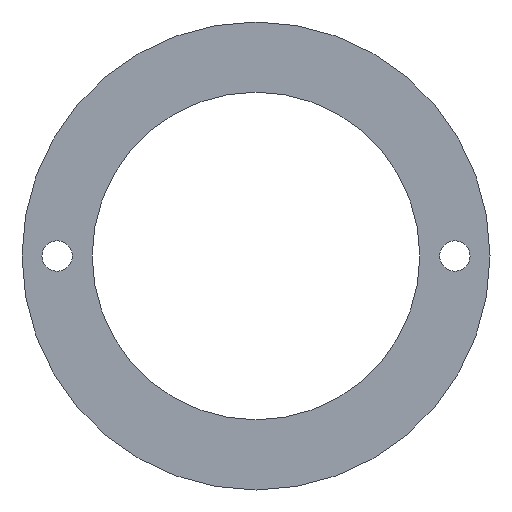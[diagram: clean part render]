
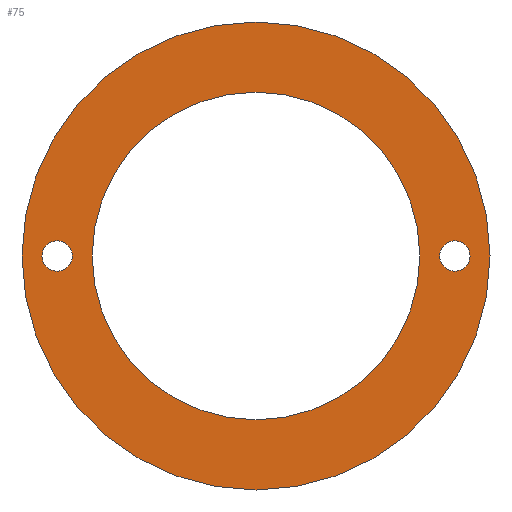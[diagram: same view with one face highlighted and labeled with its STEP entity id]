
A CAD part, front view. The second image highlights one B-rep face of the part: STEP entity #75.
In plain terms, the highlighted planar face has unit normal (0, -1, 0).
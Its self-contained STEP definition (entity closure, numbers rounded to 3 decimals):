
#3 = DIRECTION ( 'NONE',  ( 0., 0., 1. ) ) ;
#4 = CIRCLE ( 'NONE', #36, 50. ) ;
#8 = AXIS2_PLACEMENT_3D ( 'NONE', #31, #111, #174 ) ;
#31 = CARTESIAN_POINT ( 'NONE',  ( 0., 0., 0. ) ) ;
#36 = AXIS2_PLACEMENT_3D ( 'NONE', #64, #286, #313 ) ;
#45 = DIRECTION ( 'NONE',  ( 0., 0., 1. ) ) ;
#50 = EDGE_CURVE ( 'NONE', #304, #170, #4, .T. ) ;
#52 = CIRCLE ( 'NONE', #332, 3.25 ) ;
#56 = ORIENTED_EDGE ( 'NONE', *, *, #208, .T. ) ;
#64 = CARTESIAN_POINT ( 'NONE',  ( 0., 0., 0. ) ) ;
#68 = CIRCLE ( 'NONE', #256, 50. ) ;
#71 = ORIENTED_EDGE ( 'NONE', *, *, #50, .F. ) ;
#75 = ADVANCED_FACE ( 'NONE', ( #76, #298, #222, #141 ), #171, .F. ) ;
#76 = FACE_OUTER_BOUND ( 'NONE', #325, .T. ) ;
#77 = CARTESIAN_POINT ( 'NONE',  ( -42.5, 0., 3.25 ) ) ;
#79 = AXIS2_PLACEMENT_3D ( 'NONE', #337, #164, #3 ) ;
#81 = CARTESIAN_POINT ( 'NONE',  ( 0., 0., -35. ) ) ;
#84 = CARTESIAN_POINT ( 'NONE',  ( 0., 0., 50. ) ) ;
#87 = VERTEX_POINT ( 'NONE', #167 ) ;
#88 = EDGE_CURVE ( 'NONE', #170, #304, #68, .T. ) ;
#89 = AXIS2_PLACEMENT_3D ( 'NONE', #353, #153, #323 ) ;
#91 = VERTEX_POINT ( 'NONE', #81 ) ;
#94 = DIRECTION ( 'NONE',  ( 0., 0., 1. ) ) ;
#104 = ORIENTED_EDGE ( 'NONE', *, *, #163, .T. ) ;
#111 = DIRECTION ( 'NONE',  ( 0., 1., 0. ) ) ;
#116 = CIRCLE ( 'NONE', #79, 3.25 ) ;
#121 = CARTESIAN_POINT ( 'NONE',  ( 0., 0., 0. ) ) ;
#126 = EDGE_CURVE ( 'NONE', #144, #91, #204, .T. ) ;
#128 = AXIS2_PLACEMENT_3D ( 'NONE', #149, #319, #333 ) ;
#137 = ORIENTED_EDGE ( 'NONE', *, *, #185, .T. ) ;
#141 = FACE_BOUND ( 'NONE', #238, .T. ) ;
#144 = VERTEX_POINT ( 'NONE', #270 ) ;
#149 = CARTESIAN_POINT ( 'NONE',  ( -42.5, 0., 0. ) ) ;
#150 = CARTESIAN_POINT ( 'NONE',  ( 0., 0., 0. ) ) ;
#153 = DIRECTION ( 'NONE',  ( 0., 1., 0. ) ) ;
#162 = DIRECTION ( 'NONE',  ( 0., 0., 1. ) ) ;
#163 = EDGE_CURVE ( 'NONE', #207, #87, #52, .T. ) ;
#164 = DIRECTION ( 'NONE',  ( 0., 1., 0. ) ) ;
#165 = ORIENTED_EDGE ( 'NONE', *, *, #126, .T. ) ;
#167 = CARTESIAN_POINT ( 'NONE',  ( -42.5, 0., -3.25 ) ) ;
#170 = VERTEX_POINT ( 'NONE', #292 ) ;
#171 = PLANE ( 'NONE',  #8 ) ;
#173 = ORIENTED_EDGE ( 'NONE', *, *, #88, .F. ) ;
#174 = DIRECTION ( 'NONE',  ( 0., 0., 1. ) ) ;
#175 = EDGE_CURVE ( 'NONE', #91, #144, #209, .T. ) ;
#182 = CARTESIAN_POINT ( 'NONE',  ( 42.5, 0., 3.25 ) ) ;
#185 = EDGE_CURVE ( 'NONE', #87, #207, #283, .T. ) ;
#204 = CIRCLE ( 'NONE', #89, 35. ) ;
#207 = VERTEX_POINT ( 'NONE', #77 ) ;
#208 = EDGE_CURVE ( 'NONE', #284, #278, #330, .T. ) ;
#209 = CIRCLE ( 'NONE', #288, 35. ) ;
#210 = EDGE_LOOP ( 'NONE', ( #344, #165 ) ) ;
#222 = FACE_BOUND ( 'NONE', #299, .T. ) ;
#237 = ORIENTED_EDGE ( 'NONE', *, *, #265, .T. ) ;
#238 = EDGE_LOOP ( 'NONE', ( #237, #56 ) ) ;
#245 = DIRECTION ( 'NONE',  ( 0., 1., 0. ) ) ;
#252 = DIRECTION ( 'NONE',  ( 0., 1., 0. ) ) ;
#256 = AXIS2_PLACEMENT_3D ( 'NONE', #121, #252, #162 ) ;
#265 = EDGE_CURVE ( 'NONE', #278, #284, #116, .T. ) ;
#269 = AXIS2_PLACEMENT_3D ( 'NONE', #357, #328, #277 ) ;
#270 = CARTESIAN_POINT ( 'NONE',  ( 0., 0., 35. ) ) ;
#277 = DIRECTION ( 'NONE',  ( 0., 0., 1. ) ) ;
#278 = VERTEX_POINT ( 'NONE', #280 ) ;
#280 = CARTESIAN_POINT ( 'NONE',  ( 42.5, 0., -3.25 ) ) ;
#283 = CIRCLE ( 'NONE', #128, 3.25 ) ;
#284 = VERTEX_POINT ( 'NONE', #182 ) ;
#286 = DIRECTION ( 'NONE',  ( 0., 1., 0. ) ) ;
#288 = AXIS2_PLACEMENT_3D ( 'NONE', #150, #322, #94 ) ;
#292 = CARTESIAN_POINT ( 'NONE',  ( 0., 0., -50. ) ) ;
#298 = FACE_BOUND ( 'NONE', #210, .T. ) ;
#299 = EDGE_LOOP ( 'NONE', ( #137, #104 ) ) ;
#304 = VERTEX_POINT ( 'NONE', #84 ) ;
#313 = DIRECTION ( 'NONE',  ( 0., 0., 1. ) ) ;
#319 = DIRECTION ( 'NONE',  ( 0., 1., 0. ) ) ;
#322 = DIRECTION ( 'NONE',  ( 0., 1., 0. ) ) ;
#323 = DIRECTION ( 'NONE',  ( 0., 0., 1. ) ) ;
#325 = EDGE_LOOP ( 'NONE', ( #173, #71 ) ) ;
#328 = DIRECTION ( 'NONE',  ( 0., 1., 0. ) ) ;
#330 = CIRCLE ( 'NONE', #269, 3.25 ) ;
#332 = AXIS2_PLACEMENT_3D ( 'NONE', #355, #245, #45 ) ;
#333 = DIRECTION ( 'NONE',  ( 0., 0., 1. ) ) ;
#337 = CARTESIAN_POINT ( 'NONE',  ( 42.5, 0., 0. ) ) ;
#344 = ORIENTED_EDGE ( 'NONE', *, *, #175, .T. ) ;
#353 = CARTESIAN_POINT ( 'NONE',  ( 0., 0., 0. ) ) ;
#355 = CARTESIAN_POINT ( 'NONE',  ( -42.5, 0., 0. ) ) ;
#357 = CARTESIAN_POINT ( 'NONE',  ( 42.5, 0., 0. ) ) ;
